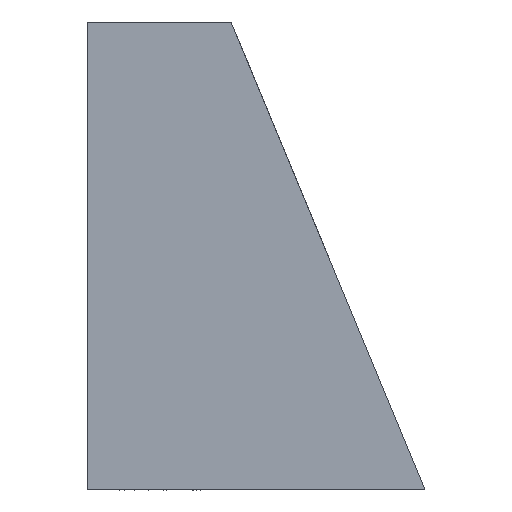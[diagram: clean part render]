
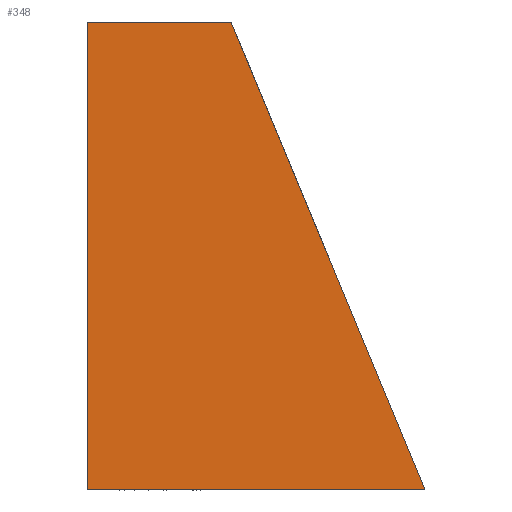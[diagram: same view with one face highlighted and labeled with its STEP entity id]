
A CAD part, front view. The second image highlights one B-rep face of the part: STEP entity #348.
In plain terms, the highlighted planar face has unit normal (0, -1, 0).
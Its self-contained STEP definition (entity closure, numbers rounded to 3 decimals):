
#52 = LINE ( 'NONE', #526, #2484 ) ;
#80 = PLANE ( 'NONE',  #3133 ) ;
#141 = CARTESIAN_POINT ( 'NONE',  ( 6070., 3545., -4990. ) ) ;
#210 = VECTOR ( 'NONE', #2134, 1000. ) ;
#255 = EDGE_CURVE ( 'NONE', #1608, #2395, #52, .T. ) ;
#317 = VECTOR ( 'NONE', #1801, 1000. ) ;
#336 = DIRECTION ( 'NONE',  ( 0., 0., -1. ) ) ;
#348 = ADVANCED_FACE ( 'NONE', ( #2626 ), #80, .F. ) ;
#369 = VERTEX_POINT ( 'NONE', #937 ) ;
#526 = CARTESIAN_POINT ( 'NONE',  ( 6070., 3545., -4990. ) ) ;
#624 = LINE ( 'NONE', #1335, #3250 ) ;
#826 = DIRECTION ( 'NONE',  ( 1., 0., 0. ) ) ;
#937 = CARTESIAN_POINT ( 'NONE',  ( 6200., 3545., -5170. ) ) ;
#1005 = CARTESIAN_POINT ( 'NONE',  ( 6125.442, 3545., -4990. ) ) ;
#1335 = CARTESIAN_POINT ( 'NONE',  ( 6070., 3545., -5170. ) ) ;
#1379 = EDGE_CURVE ( 'NONE', #1608, #2028, #1734, .T. ) ;
#1566 = ORIENTED_EDGE ( 'NONE', *, *, #1379, .T. ) ;
#1608 = VERTEX_POINT ( 'NONE', #141 ) ;
#1734 = LINE ( 'NONE', #2785, #317 ) ;
#1790 = ORIENTED_EDGE ( 'NONE', *, *, #3042, .T. ) ;
#1801 = DIRECTION ( 'NONE',  ( 0., 0., -1. ) ) ;
#1835 = CARTESIAN_POINT ( 'NONE',  ( 6070., 3545., -5170. ) ) ;
#1838 = LINE ( 'NONE', #2111, #210 ) ;
#1963 = ORIENTED_EDGE ( 'NONE', *, *, #255, .F. ) ;
#2028 = VERTEX_POINT ( 'NONE', #2698 ) ;
#2111 = CARTESIAN_POINT ( 'NONE',  ( 6180.962, 3545., -5124.038 ) ) ;
#2134 = DIRECTION ( 'NONE',  ( -0.383, 0., 0.924 ) ) ;
#2135 = ORIENTED_EDGE ( 'NONE', *, *, #2304, .T. ) ;
#2219 = EDGE_LOOP ( 'NONE', ( #1790, #1963, #1566, #2135 ) ) ;
#2304 = EDGE_CURVE ( 'NONE', #2028, #369, #624, .T. ) ;
#2395 = VERTEX_POINT ( 'NONE', #1005 ) ;
#2484 = VECTOR ( 'NONE', #3102, 1000. ) ;
#2611 = DIRECTION ( 'NONE',  ( 0., 1., 0. ) ) ;
#2626 = FACE_OUTER_BOUND ( 'NONE', #2219, .T. ) ;
#2698 = CARTESIAN_POINT ( 'NONE',  ( 6070., 3545., -5170. ) ) ;
#2785 = CARTESIAN_POINT ( 'NONE',  ( 6070., 3545., -5170. ) ) ;
#3042 = EDGE_CURVE ( 'NONE', #369, #2395, #1838, .T. ) ;
#3102 = DIRECTION ( 'NONE',  ( 1., 0., 0. ) ) ;
#3133 = AXIS2_PLACEMENT_3D ( 'NONE', #1835, #2611, #336 ) ;
#3250 = VECTOR ( 'NONE', #826, 1000. ) ;
